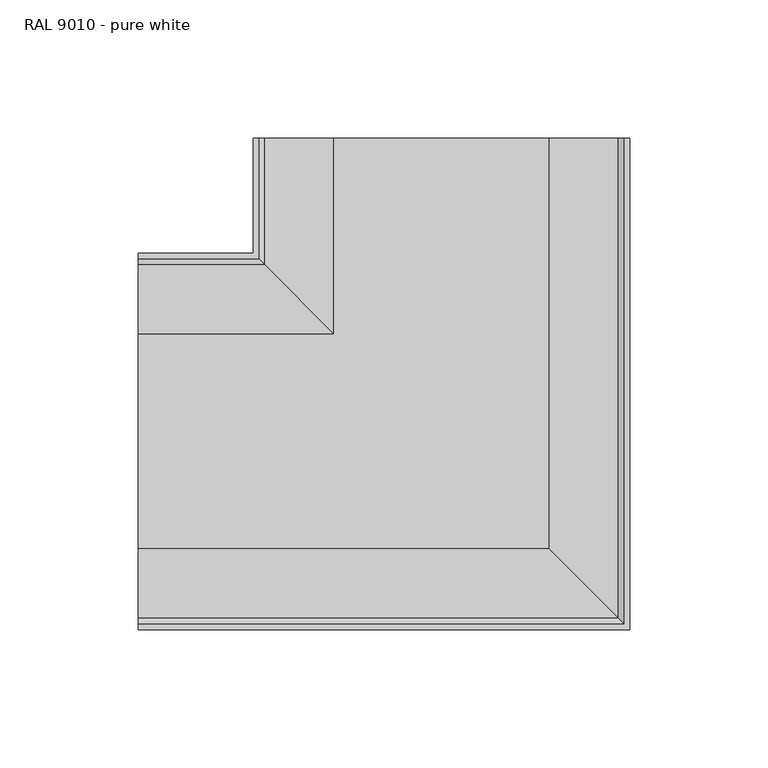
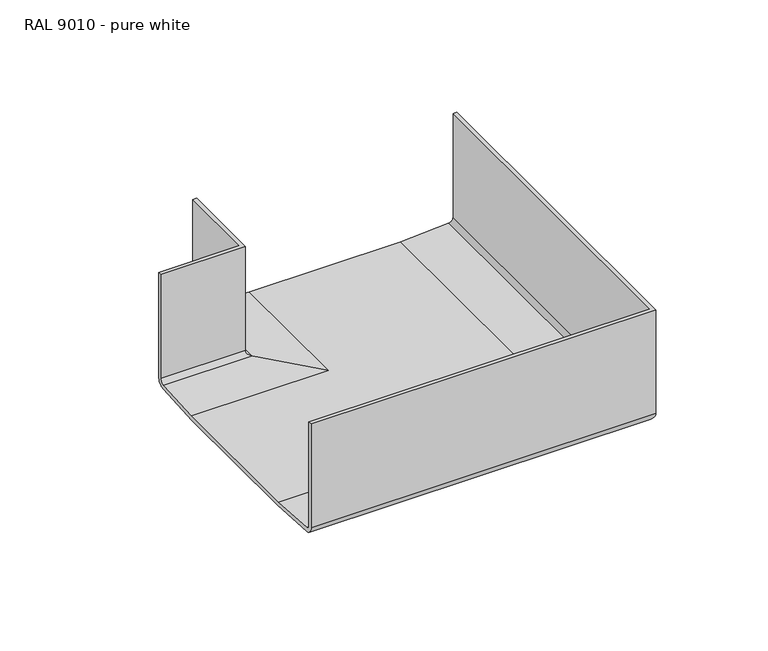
"""IFC4 building model written with IfcOpenShell, lengths in millimetres: cable carrier fitting geometry, Electrical_Installations_Hager_GBD-Flat-Corner-Vertical-Inside-And-Outside-Bend-Flat : RAL 9010 - pure white."""

from ifc_helpers import new_model, si_unit, frame, origin, place, context, project, spatial, polyline, circle_curve, ellipse_curve, source, transform, mapped, element, save
from ifc_brep_helpers import plane_surface, cylinder_surface, revolved_surface, advanced_brep


def ral_9010_pure_white_ffbb5359(model_context):
    return source(origin(), model_context, "Body", "AdvancedBrep", [
        advanced_brep(
        [(-109.5, 37.8133024, -34.957916), (-109.5, -37.8629789, -34.957916), (-109.5, -63.9370768, -33.406396), (-109.5, -68.0248383, -29.0681648), (-109.5, -68.0248383, 27.521231), (-109.5, -66.0727353, 27.521231), (-109.5, -66.0727353, -29.0681648), (-109.5, -63.9329395, -31.4049977), (-109.5, -38.8540421, -32.926666), (-109.5, 38.8043655, -32.926666), (-109.5, 63.819149, -31.4097682), (-109.5, 66.0139434, -29.0681648), (-109.5, 66.0139434, 27.6254199), (-109.5, 67.9751617, 27.6254199), (-109.5, 67.9751617, -29.0681648), (-109.5, 64.011084, -33.3972636), (-37.8133024, 37.8133024, -34.957916), (-37.8133024, 109.5, -34.957916), (37.8629789, 109.5, -34.957916), (37.8629789, -37.8629789, -34.957916), (63.9370768, -63.9370768, -33.406396), (68.0248383, -68.0248383, -29.0681648), (68.0248383, -68.0248383, 27.521231), (68.0248383, 109.5, 27.521231), (66.0727353, 109.5, 27.521231), (66.0727353, -66.0727353, 27.521231), (66.0727353, -66.0727353, -29.0681648), (63.9329395, -63.9329395, -31.4049977), (38.8540421, -38.8540421, -32.926666), (38.8540421, 109.5, -32.926666), (-38.8043655, 109.5, -32.926666), (-38.8043655, 38.8043655, -32.926666), (-63.819149, 63.819149, -31.4097682), (-66.0139434, 66.0139434, -29.0681648), (-66.0139434, 66.0139434, 27.6254199), (-66.0139434, 109.5, 27.6254199), (-67.9751617, 109.5, 27.6254199), (-67.9751617, 67.9751617, 27.6254199), (-67.9751617, 67.9751617, -29.0681648), (-64.011084, 64.011084, -33.3972636), (-63.8874003, 109.5, -33.406396), (-67.9751617, 109.5, -29.0681648), (-66.0139434, 109.5, -29.0681648), (-63.8741476, 109.5, -31.4049977), (63.8688255, 109.5, -31.4097682), (66.0727353, 109.5, -29.0681648), (68.0248383, 109.5, -29.0681648), (64.0607605, 109.5, -33.3972636)],
        [
            (0, 1),
            (1, 2, circle_curve(frame((-109.5, -33.5707654, 257.0450878), z_axis=(-1.0, 0.0, 0.0), x_axis=(0.0, 0.0, 1.0)), 292.0345481)),
            (2, 3, circle_curve(frame((-109.5, -63.6789336, -29.0681648), z_axis=(-1.0, 0.0, 0.0), x_axis=(0.0, 0.0, 1.0)), 4.3459047)),
            (3, 4),
            (4, 5),
            (5, 6),
            (6, 7, circle_curve(frame((-109.5, -63.7268306, -29.0681648), z_axis=(1.0, 0.0, 0.0), x_axis=(0.0, 0.0, 1.0)), 2.3459047)),
            (7, 8, circle_curve(frame((-109.5, -34.3389631, 248.5451055), z_axis=(1.0, 0.0, 0.0), x_axis=(0.0, 0.0, 1.0)), 281.5079822)),
            (8, 9),
            (9, 10, circle_curve(frame((-109.5, 34.2892866, 248.5451055), z_axis=(1.0, 0.0, 0.0), x_axis=(0.0, 0.0, 1.0)), 281.5079822)),
            (10, 11, circle_curve(frame((-109.5, 63.6680387, -29.0681648), z_axis=(1.0, 0.0, 0.0), x_axis=(0.0, 0.0, 1.0)), 2.3459047)),
            (11, 12),
            (12, 13),
            (13, 14),
            (14, 15, circle_curve(frame((-109.5, 63.629257, -29.0681648), z_axis=(-1.0, 0.0, 0.0), x_axis=(0.0, 0.0, 1.0)), 4.3459047)),
            (15, 0, circle_curve(frame((-109.5, 33.5210889, 257.0450878), z_axis=(-1.0, 0.0, 0.0), x_axis=(0.0, 0.0, 1.0)), 292.0345481)),
            (0, 16),
            (16, 17),
            (17, 18),
            (18, 19),
            (19, 1),
            (19, 20, ellipse_curve(frame((33.5707654, -33.5707654, 257.0450878), z_axis=(-0.707106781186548, -0.7071067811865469, 0.0), x_axis=(-0.707106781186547, 0.707106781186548, 0.0)), 412.9992186, 292.0345481)),
            (20, 2),
            (20, 21, ellipse_curve(frame((63.6789336, -63.6789336, -29.0681648), z_axis=(-0.707106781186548, -0.7071067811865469, 0.0), x_axis=(-0.707106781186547, 0.707106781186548, 0.0)), 6.1460374, 4.3459047)),
            (21, 3),
            (21, 22),
            (22, 4),
            (22, 23),
            (23, 24),
            (24, 25),
            (25, 5),
            (25, 26),
            (26, 6),
            (26, 27, ellipse_curve(frame((63.7268306, -63.7268306, -29.0681648), z_axis=(0.707106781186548, 0.7071067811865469, 0.0), x_axis=(0.707106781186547, -0.707106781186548, 0.0)), 3.3176103, 2.3459047)),
            (27, 7),
            (27, 28, ellipse_curve(frame((34.3389631, -34.3389631, 248.5451055), z_axis=(0.707106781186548, 0.7071067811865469, 0.0), x_axis=(0.707106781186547, -0.707106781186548, 0.0)), 398.1124064, 281.5079822)),
            (28, 8),
            (28, 29),
            (29, 30),
            (30, 31),
            (31, 9),
            (31, 32, ellipse_curve(frame((-34.2892866, 34.2892866, 248.5451055), z_axis=(0.707106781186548, 0.7071067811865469, 0.0), x_axis=(0.707106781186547, -0.707106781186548, 0.0)), 398.1124064, 281.5079822)),
            (32, 10),
            (32, 33, ellipse_curve(frame((-63.6680387, 63.6680387, -29.0681648), z_axis=(0.707106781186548, 0.7071067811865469, 0.0), x_axis=(0.707106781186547, -0.707106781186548, 0.0)), 3.3176103, 2.3459047)),
            (33, 11),
            (33, 34),
            (34, 12),
            (34, 35),
            (35, 36),
            (36, 37),
            (37, 13),
            (37, 38),
            (38, 14),
            (38, 39, ellipse_curve(frame((-63.629257, 63.629257, -29.0681648), z_axis=(-0.707106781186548, -0.7071067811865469, 0.0), x_axis=(-0.707106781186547, 0.707106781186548, 0.0)), 6.1460374, 4.3459047)),
            (39, 15),
            (39, 16, ellipse_curve(frame((-33.5210889, 33.5210889, 257.0450878), z_axis=(-0.707106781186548, -0.7071067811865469, 0.0), x_axis=(-0.707106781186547, 0.707106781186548, 0.0)), 412.9992186, 292.0345481)),
            (17, 40, circle_curve(frame((-33.5210889, 109.5, 257.0450878), z_axis=(0.0, 1.0, 0.0), x_axis=(0.0, 0.0, 1.0)), 292.0345481)),
            (40, 41, circle_curve(frame((-63.629257, 109.5, -29.0681648), z_axis=(0.0, 1.0, 0.0), x_axis=(0.0, 0.0, 1.0)), 4.3459047)),
            (41, 36),
            (35, 42),
            (42, 43, circle_curve(frame((-63.6680387, 109.5, -29.0681648), z_axis=(0.0, -1.0, 0.0), x_axis=(0.0, 0.0, 1.0)), 2.3459047)),
            (43, 30, circle_curve(frame((-34.2892866, 109.5, 248.5451055), z_axis=(0.0, -1.0, 0.0), x_axis=(0.0, 0.0, 1.0)), 281.5079822)),
            (29, 44, circle_curve(frame((34.3389631, 109.5, 248.5451055), z_axis=(0.0, -1.0, 0.0), x_axis=(0.0, 0.0, 1.0)), 281.5079822)),
            (44, 45, circle_curve(frame((63.7268306, 109.5, -29.0681648), z_axis=(0.0, -1.0, 0.0), x_axis=(0.0, 0.0, 1.0)), 2.3459047)),
            (45, 24),
            (23, 46),
            (46, 47, circle_curve(frame((63.6789336, 109.5, -29.0681648), z_axis=(0.0, 1.0, 0.0), x_axis=(0.0, 0.0, 1.0)), 4.3459047)),
            (47, 18, circle_curve(frame((33.5707654, 109.5, 257.0450878), z_axis=(0.0, 1.0, 0.0), x_axis=(0.0, 0.0, 1.0)), 292.0345481)),
            (47, 20),
            (46, 21),
            (45, 26),
            (44, 27),
            (43, 32),
            (42, 33),
            (41, 38),
            (40, 39),
        ],
        [
            plane_surface(frame((-109.5, 0.0, 0.0), z_axis=(-1.0, 0.0, 0.0), x_axis=(0.0, 0.0, 1.0))),
            plane_surface(frame((-109.5, 37.8133024, -34.957916), z_axis=(0.0, 0.0, -1.0), x_axis=(1.0, 0.0, 0.0))),
            cylinder_surface(frame((-109.5, -33.5707654, 257.0450878), z_axis=(-1.0, 0.0, 0.0), x_axis=(0.0, 0.0, 1.0)), 292.0345481),
            cylinder_surface(frame((-109.5, -63.6789336, -29.0681648), z_axis=(-1.0, 0.0, 0.0), x_axis=(0.0, 0.0, 1.0)), 4.3459047),
            plane_surface(frame((-109.5, -68.0248383, -29.0681648), z_axis=(0.0, -1.0, 0.0), x_axis=(1.0, 0.0, 0.0))),
            plane_surface(frame((-109.5, -68.0248383, 27.521231), z_axis=(0.0, 0.0, 1.0), x_axis=(1.0, 0.0, 0.0))),
            plane_surface(frame((-109.5, -66.0727353, 27.521231), z_axis=(0.0, 1.0, 0.0), x_axis=(1.0, 0.0, 0.0))),
            revolved_surface(polyline([(66.07273534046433, -63.7268306, -26.7222601), (-109.5, -63.7268306, -26.7222601)]), (-109.5, -63.7268306, -29.0681648), (1.0, 0.0, 0.0)),
            revolved_surface(polyline([(315.8469453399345, -34.3389631, 530.0530877), (-247.1690191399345, -34.3389631, 530.0530877)]), (-109.5, -34.3389631, 248.5451055), (1.0, 0.0, 0.0)),
            plane_surface(frame((-109.5, -38.8540421, -32.926666), z_axis=(0.0, 0.0, 1.0), x_axis=(1.0, 0.0, 0.0))),
            revolved_surface(polyline([(247.21869563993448, 34.2892866, 530.0530877), (-315.79726883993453, 34.2892866, 530.0530877)]), (-109.5, 34.2892866, 248.5451055), (1.0, 0.0, 0.0)),
            revolved_surface(polyline([(-61.32213395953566, 63.6680387, -26.7222601), (-109.5, 63.6680387, -26.7222601)]), (-109.5, 63.6680387, -29.0681648), (1.0, 0.0, 0.0)),
            plane_surface(frame((-109.5, 66.0139434, -29.0681648), z_axis=(0.0, -1.0, 0.0), x_axis=(1.0, 0.0, 0.0))),
            plane_surface(frame((-109.5, 66.0139434, 27.6254199), z_axis=(0.0, 0.0, 1.0), x_axis=(1.0, 0.0, 0.0))),
            plane_surface(frame((-109.5, 67.9751617, 27.6254199), z_axis=(0.0, 1.0, 0.0), x_axis=(1.0, 0.0, 0.0))),
            cylinder_surface(frame((-109.5, 63.629257, -29.0681648), z_axis=(-1.0, 0.0, 0.0), x_axis=(0.0, 0.0, 1.0)), 4.3459047),
            cylinder_surface(frame((-109.5, 33.5210889, 257.0450878), z_axis=(-1.0, 0.0, 0.0), x_axis=(0.0, 0.0, 1.0)), 292.0345481),
            plane_surface(frame((0.0, 109.5, 0.0), z_axis=(0.0, 1.0, 0.0), x_axis=(0.0, 0.0, 1.0))),
            cylinder_surface(frame((33.5707654, 0.0, 257.0450878), z_axis=(0.0, -1.0, 0.0), x_axis=(0.0, 0.0, 1.0)), 292.0345481),
            cylinder_surface(frame((63.6789336, 0.0, -29.0681648), z_axis=(0.0, -1.0, 0.0), x_axis=(0.0, 0.0, 1.0)), 4.3459047),
            plane_surface(frame((68.0248383, -68.0248383, -29.0681648), z_axis=(1.0, 0.0, 0.0), x_axis=(0.0, 1.0, 0.0))),
            plane_surface(frame((66.0727353, -66.0727353, 27.521231), z_axis=(-1.0, 0.0, 0.0), x_axis=(0.0, 1.0, 0.0))),
            revolved_surface(polyline([(63.7268306, 109.5, -26.7222601), (63.7268306, -66.07273534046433, -26.7222601)]), (63.7268306, 0.0, -29.0681648), (0.0, 1.0, 0.0)),
            revolved_surface(polyline([(34.3389631, 247.1690191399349, 530.0530877), (34.3389631, -315.8469453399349, 530.0530877)]), (34.3389631, 0.0, 248.5451055), (0.0, 1.0, 0.0)),
            revolved_surface(polyline([(-34.2892866, 315.7972688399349, 530.0530877), (-34.2892866, -247.2186956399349, 530.0530877)]), (-34.2892866, 0.0, 248.5451055), (0.0, 1.0, 0.0)),
            revolved_surface(polyline([(-63.6680387, 109.5, -26.7222601), (-63.6680387, 61.32213395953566, -26.7222601)]), (-63.6680387, 0.0, -29.0681648), (0.0, 1.0, 0.0)),
            plane_surface(frame((-66.0139434, 66.0139434, -29.0681648), z_axis=(1.0, 0.0, 0.0), x_axis=(0.0, 1.0, 0.0))),
            plane_surface(frame((-67.9751617, 67.9751617, 27.6254199), z_axis=(-1.0, 0.0, 0.0), x_axis=(0.0, 1.0, 0.0))),
            cylinder_surface(frame((-63.629257, 0.0, -29.0681648), z_axis=(0.0, -1.0, 0.0), x_axis=(0.0, 0.0, 1.0)), 4.3459047),
            cylinder_surface(frame((-33.5210889, 0.0, 257.0450878), z_axis=(0.0, -1.0, 0.0), x_axis=(0.0, 0.0, 1.0)), 292.0345481),
        ],
        [
            (0, [[1, 2, 3, 4, 5, 6, 7, 8, 9, 10, 11, 12, 13, 14, 15, 16]]),
            (1, [[-1, 17, 18, 19, 20, 21]]),
            (2, [[-2, -21, 22, 23]]),
            (3, [[-3, -23, 24, 25]]),
            (4, [[-4, -25, 26, 27]]),
            (5, [[-5, -27, 28, 29, 30, 31]]),
            (6, [[-6, -31, 32, 33]]),
            (7, [[-7, -33, 34, 35]]),
            (8, [[-8, -35, 36, 37]]),
            (9, [[-9, -37, 38, 39, 40, 41]]),
            (10, [[-10, -41, 42, 43]]),
            (11, [[-11, -43, 44, 45]]),
            (12, [[-12, -45, 46, 47]]),
            (13, [[-13, -47, 48, 49, 50, 51]]),
            (14, [[-14, -51, 52, 53]]),
            (15, [[-15, -53, 54, 55]]),
            (16, [[-16, -55, 56, -17]]),
            (17, [[57, 58, 59, -49, 60, 61, 62, -39, 63, 64, 65, -29, 66, 67, 68, -19]]),
            (18, [[-22, -20, -68, 69]]),
            (19, [[-24, -69, -67, 70]]),
            (20, [[-26, -70, -66, -28]]),
            (21, [[-32, -30, -65, 71]]),
            (22, [[-34, -71, -64, 72]]),
            (23, [[-36, -72, -63, -38]]),
            (24, [[-42, -40, -62, 73]]),
            (25, [[-44, -73, -61, 74]]),
            (26, [[-46, -74, -60, -48]]),
            (27, [[-52, -50, -59, 75]]),
            (28, [[-54, -75, -58, 76]]),
            (29, [[-56, -76, -57, -18]]),
        ],
    ),
    ])


if __name__ == "__main__":
    model = new_model("IFC4")
    model_context = context("Model", 3, world=origin())
    ifc_project = project(units=[si_unit("LENGTHUNIT", "METRE", prefix="MILLI")], contexts=[model_context])
    site = spatial("IfcSite", under=ifc_project)
    building = spatial("IfcBuilding", under=site)
    placement = place(None, origin())
    ral_9010_pure_white_shape = ral_9010_pure_white_ffbb5359(model_context)
    element("IfcCableCarrierFitting", 1, ObjectType="Electrical_Installations_Hager_GBD-Flat-Corner-Vertical-Inside-And-Outside-Bend-Flat : RAL 9010 - pure white", at=placement, inside=building, context=model_context, shape_type="MappedRepresentation", body=[
        mapped(ral_9010_pure_white_shape, transform((0.0, 0.0, 0.0), x_axis=(1.0, 0.0, 0.0), y_axis=(0.0, 1.0, 0.0), z_axis=(0.0, 0.0, 1.0))),
    ])
    save(model, "model.ifc")
